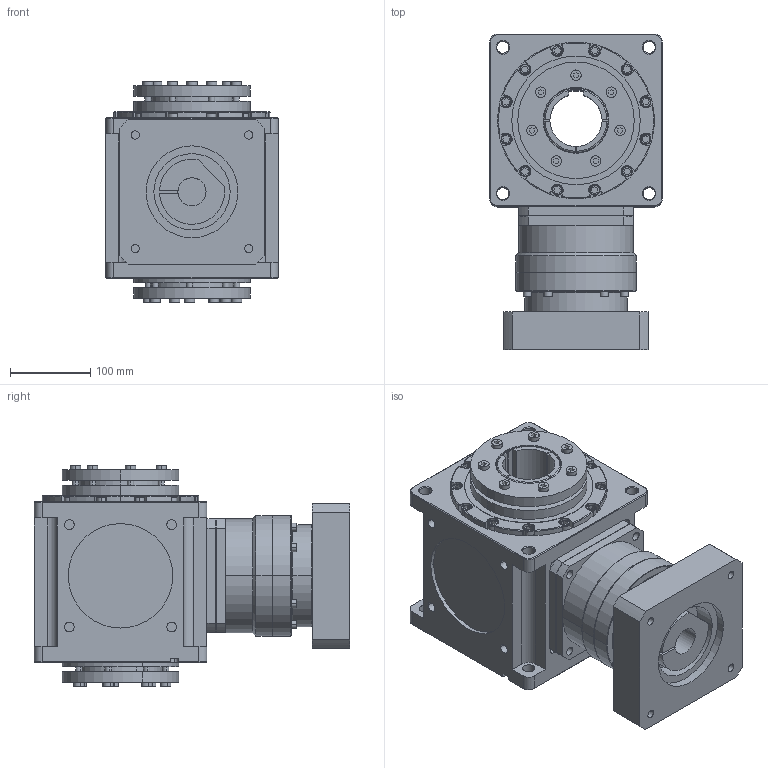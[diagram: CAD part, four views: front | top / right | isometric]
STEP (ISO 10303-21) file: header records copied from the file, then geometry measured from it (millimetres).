
FILE_DESCRIPTION (( 'STEP AP214' ), '1' );
FILE_NAME ('CCW215A-L1(6-20)-2HP-K 35-114.3-200-M12.STEP', '2025-05-28T07:41:14', ( '微软用户' ), ( '微软中国' ), 'SwSTEP 2.0', 'SolidWorks 2024', '' );
FILE_SCHEMA (( 'AUTOMOTIVE_DESIGN' ));
Length unit declared in the file: millimetre
Products named in the file (5): 外紧固型胀紧套[80-145]_EDO-80-145; CCW215A-002-2HP-K箱体; CCW215A行星垫板; CCW215A-L1(6-20)-2HP-K 35-114.3-200-M12; VRB-142-L1-S2-P1 35-114.3-200-M12
Assembly tree (5 placements, depth 2):
  CCW215A-L1(6-20)-2HP-K 35-114.3-200-M12
    VRB-142-L1-S2-P1 35-114.3-200-M12
    CCW215A-002-2HP-K箱体
    CCW215A行星垫板
    外紧固型胀紧套[80-145]_EDO-80-145  x2
Bounding box: 215 x 393 x 275.1 mm (x, y, z)
Volume: 11990779.3 mm3; surface area: 747883.5 mm2
Topology: 5 solids, 5 shells, 1043 faces, 2541 edges, 1627 vertices
Faces by surface type: plane 486, cylinder 400, torus 81, cone 52, bspline 24
Entity records: 28621 total; most frequent: CARTESIAN_POINT 6133, DIRECTION 4891, ORIENTED_EDGE 4502, EDGE_CURVE 2251, AXIS2_PLACEMENT_3D 1835, VERTEX_POINT 1435, LINE 1221, VECTOR 1221
